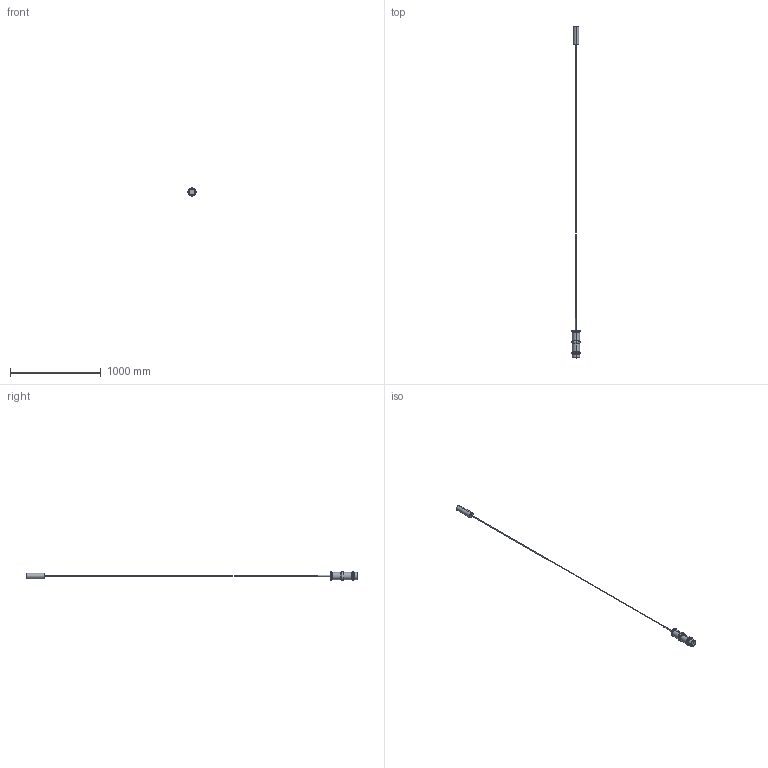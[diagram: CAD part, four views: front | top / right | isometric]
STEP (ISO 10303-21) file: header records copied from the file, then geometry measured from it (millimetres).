
FILE_DESCRIPTION (( 'STEP AP214' ), '1' );
FILE_NAME ('C1319-S_CANNA.STEP', '2023-11-03T08:44:40', ( '' ), ( '' ), 'SwSTEP 2.0', 'SolidWorks 2018', '' );
FILE_SCHEMA (( 'AUTOMOTIVE_DESIGN' ));
Length unit declared in the file: millimetre
Products named in the file (2): C1319-S_CANNA
Bounding box: 99.93 x 3665 x 99.93 mm (x, y, z)
Volume: 1905782.7 mm3; surface area: 331609.8 mm2
Topology: 7 solids, 7 shells, 54 faces, 96 edges, 56 vertices
Faces by surface type: torus 20, cylinder 20, plane 14
Entity records: 1431 total; most frequent: DIRECTION 284, CARTESIAN_POINT 208, ORIENTED_EDGE 192, AXIS2_PLACEMENT_3D 132, EDGE_CURVE 96, CIRCLE 76, EDGE_LOOP 56, VERTEX_POINT 56
